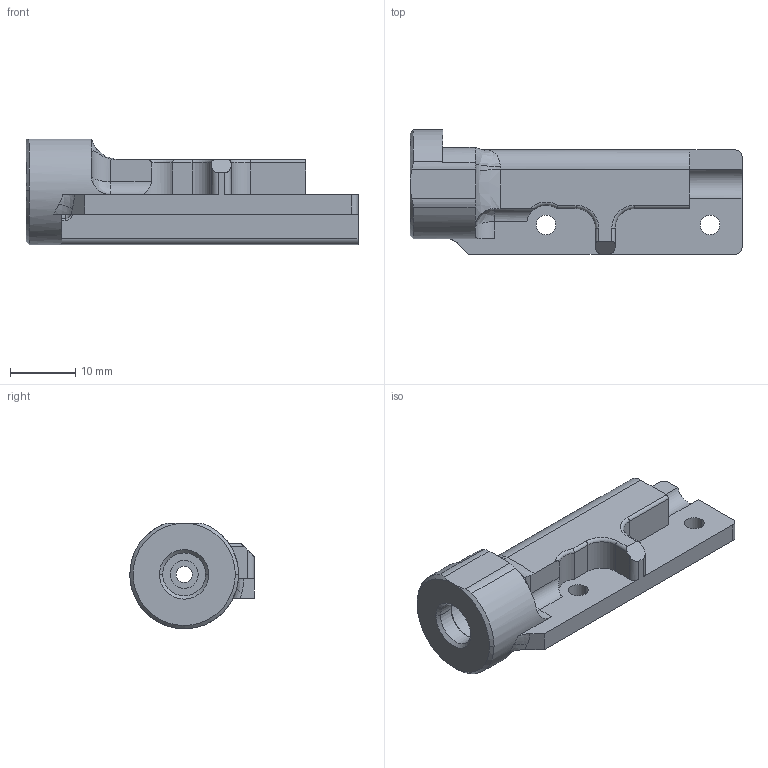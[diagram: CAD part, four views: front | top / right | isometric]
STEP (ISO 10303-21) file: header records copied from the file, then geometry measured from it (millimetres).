
FILE_DESCRIPTION((''),'2;1');
FILE_NAME('1_000_9990001','2024-10-21T08:41:17',('Administrator'),(''),'CREO PARAMETRIC BY PTC INC, 2024063','CREO PARAMETRIC BY PTC INC, 2024063','');
FILE_SCHEMA(('CONFIG_CONTROL_DESIGN'));
Length unit declared in the file: millimetre
Products named in the file (1): 1_000_9990001
Bounding box: 51 x 19.1 x 16.21 mm (x, y, z)
Volume: 5572.7 mm3; surface area: 3918.9 mm2
Topology: 1 solids, 1 shells, 90 faces, 242 edges, 155 vertices
Faces by surface type: cylinder 37, plane 30, bspline 9, cone 7, torus 7
Entity records: 3550 total; most frequent: CARTESIAN_POINT 1282, ORIENTED_EDGE 484, DIRECTION 451, EDGE_CURVE 242, AXIS2_PLACEMENT_3D 172, VERTEX_POINT 155, VECTOR 107, LINE 107
